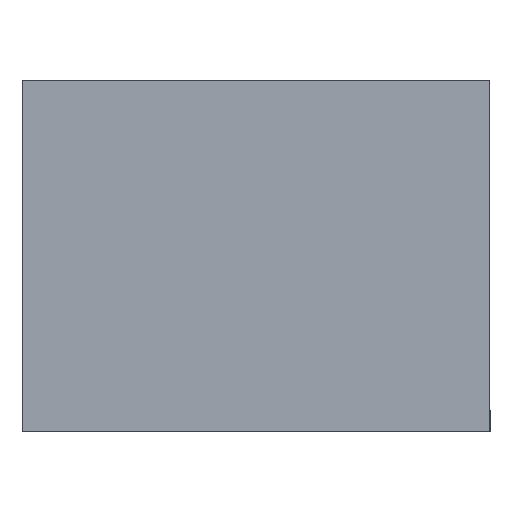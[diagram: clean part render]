
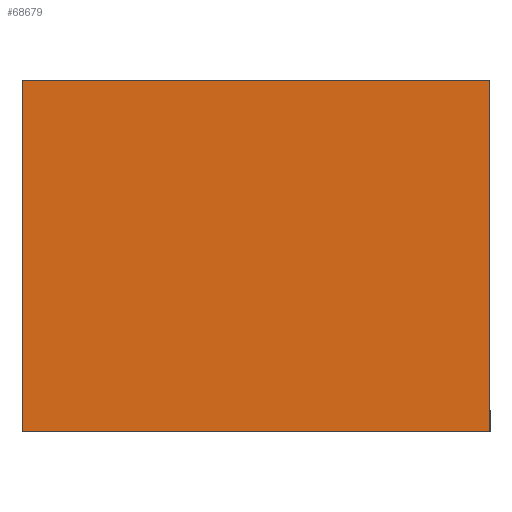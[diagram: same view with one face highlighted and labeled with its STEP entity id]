
A CAD part, top view. The second image highlights one B-rep face of the part: STEP entity #68679.
In plain terms, the highlighted planar face has unit normal (0, 0, 1).
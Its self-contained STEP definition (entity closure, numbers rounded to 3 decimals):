
#68679=ADVANCED_FACE('',(#69161),#88360,.T.);
#69161=FACE_OUTER_BOUND('',#69843,.T.);
#69843=EDGE_LOOP('',(#71896,#71897,#71898,#71899));
#71896=ORIENTED_EDGE('',*,*,#72998,.T.);
#71897=ORIENTED_EDGE('',*,*,#73001,.T.);
#71898=ORIENTED_EDGE('',*,*,#72999,.T.);
#71899=ORIENTED_EDGE('',*,*,#73000,.T.);
#72998=EDGE_CURVE('',#88223,#88224,#87492,.T.);
#72999=EDGE_CURVE('',#88225,#88226,#87493,.T.);
#73000=EDGE_CURVE('',#88226,#88223,#87494,.T.);
#73001=EDGE_CURVE('',#88224,#88225,#87495,.T.);
#87492=B_SPLINE_CURVE_WITH_KNOTS('',1,(#325314,#325315),.UNSPECIFIED.,.F.,
 .F.,(2,2),(1.,1498.844),.UNSPECIFIED.);
#87493=B_SPLINE_CURVE_WITH_KNOTS('',1,(#325316,#325317),.UNSPECIFIED.,.F.,
 .F.,(2,2),(1.,1498.844),.UNSPECIFIED.);
#87494=B_SPLINE_CURVE_WITH_KNOTS('',1,(#325318,#325319),.UNSPECIFIED.,.F.,
 .F.,(2,2),(1.,1999.),.UNSPECIFIED.);
#87495=B_SPLINE_CURVE_WITH_KNOTS('',1,(#325320,#325321),.UNSPECIFIED.,.F.,
 .F.,(2,2),(1.,1999.),.UNSPECIFIED.);
#88223=VERTEX_POINT('',#325270);
#88224=VERTEX_POINT('',#325271);
#88225=VERTEX_POINT('',#325272);
#88226=VERTEX_POINT('',#325273);
#88360=PLANE('',#88818);
#88818=AXIS2_PLACEMENT_3D('',#325205,#88968,$);
#88968=DIRECTION('',(0.,0.,1.));
#325205=CARTESIAN_POINT('',(-1177.003,-1617.804,705.514));
#325270=CARTESIAN_POINT('',(821.997,-1616.804,705.514));
#325271=CARTESIAN_POINT('',(821.997,-118.96,705.514));
#325272=CARTESIAN_POINT('',(-1176.003,-118.96,705.514));
#325273=CARTESIAN_POINT('',(-1176.003,-1616.804,705.514));
#325314=CARTESIAN_POINT('',(821.997,-1616.804,705.514));
#325315=CARTESIAN_POINT('',(821.997,-118.96,705.514));
#325316=CARTESIAN_POINT('',(-1176.003,-118.96,705.514));
#325317=CARTESIAN_POINT('',(-1176.003,-1616.804,705.514));
#325318=CARTESIAN_POINT('',(-1176.003,-1616.804,705.514));
#325319=CARTESIAN_POINT('',(821.997,-1616.804,705.514));
#325320=CARTESIAN_POINT('',(821.997,-118.96,705.514));
#325321=CARTESIAN_POINT('',(-1176.003,-118.96,705.514));
